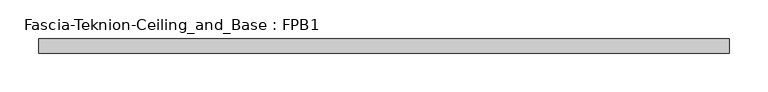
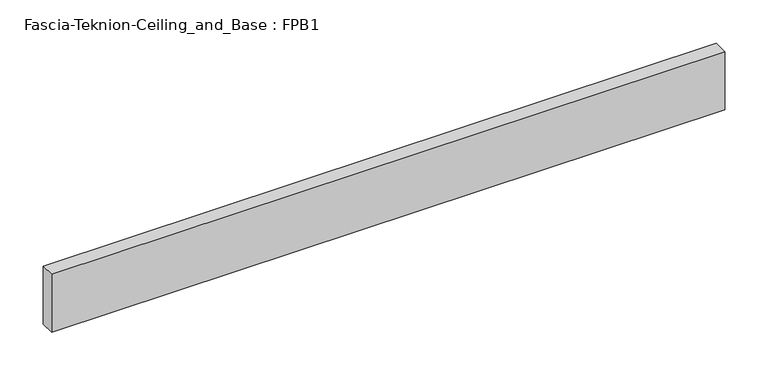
"""IFC4 building model written with IfcOpenShell, lengths in millimetres: proxy geometry, Fascia-Teknion-Ceiling_and_Base : FPB1."""

from ifc_helpers import new_model, si_unit, origin, origin_with_axes, place, context, project, spatial, polyline, outline, extrude, source, transform, mapped, element, save


def fascia_teknion_ceiling_and_base_fpb1_3f1045f8(model_context):
    return source(origin(), model_context, "Body", "SweptSolid", [
        extrude(outline(polyline([(447.0300781, 0.0), (447.0300781, -19.05), (-447.0300781, -19.05), (-447.0300781, 0.0), (447.0300781, 0.0)])), origin_with_axes(), (0.0, 0.0, 1.0), 81.28),
    ])


if __name__ == "__main__":
    model = new_model("IFC4")
    model_context = context("Model", 3, world=origin())
    ifc_project = project(units=[si_unit("LENGTHUNIT", "METRE", prefix="MILLI")], contexts=[model_context])
    site = spatial("IfcSite", under=ifc_project)
    building = spatial("IfcBuilding", under=site)
    placement = place(None, origin())
    fascia_teknion_ceiling_and_base_fpb1_shape = fascia_teknion_ceiling_and_base_fpb1_3f1045f8(model_context)
    element("IfcBuildingElementProxy", 1, Name="Fascia-Teknion-Ceiling_and_Base : FPB1", ObjectType="Fascia-Teknion-Ceiling_and_Base : FPB1", at=placement, inside=building, context=model_context, shape_type="MappedRepresentation", body=[
        mapped(fascia_teknion_ceiling_and_base_fpb1_shape, transform((0.0, 0.0, 0.0), x_axis=(1.0, 0.0, 0.0), y_axis=(0.0, 1.0, 0.0), z_axis=(0.0, 0.0, 1.0))),
    ])
    save(model, "model.ifc")
